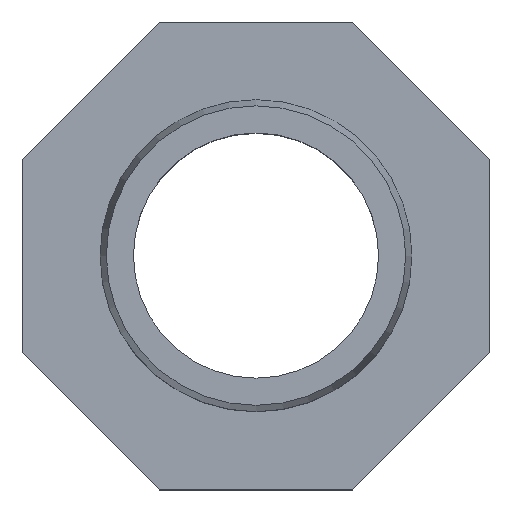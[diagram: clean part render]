
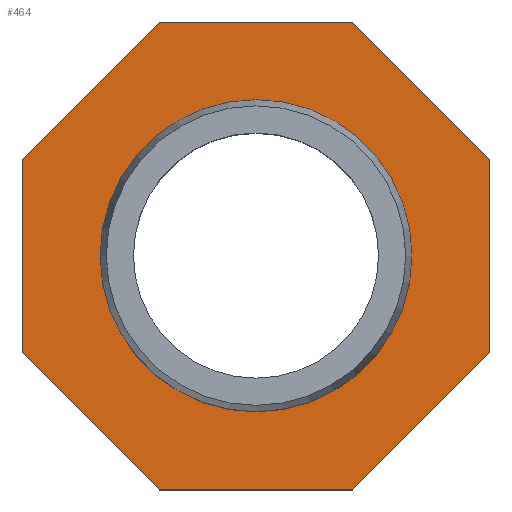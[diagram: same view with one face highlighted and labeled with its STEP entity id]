
A CAD part, top view. The second image highlights one B-rep face of the part: STEP entity #464.
In plain terms, the highlighted planar face has unit normal (0, 0, 1).
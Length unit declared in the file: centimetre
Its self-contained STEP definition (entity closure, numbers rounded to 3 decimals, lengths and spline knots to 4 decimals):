
#19=LINE('',#5173,#46);
#23=LINE('',#5181,#50);
#26=LINE('',#5187,#53);
#29=LINE('',#5193,#56);
#32=LINE('',#5199,#59);
#35=LINE('',#5205,#62);
#38=LINE('',#5211,#65);
#41=LINE('',#5216,#68);
#46=VECTOR('',#554,3.1066);
#50=VECTOR('',#560,3.1066);
#53=VECTOR('',#565,3.1066);
#56=VECTOR('',#570,3.1066);
#59=VECTOR('',#575,3.1066);
#62=VECTOR('',#580,3.1066);
#65=VECTOR('',#585,3.1066);
#68=VECTOR('',#590,3.1066);
#98=PLANE('',#500);
#108=FACE_BOUND('',#173,.T.);
#137=FACE_OUTER_BOUND('',#172,.T.);
#172=EDGE_LOOP('',(#382,#383,#384,#385,#386,#387,#388,#389));
#173=EDGE_LOOP('',(#390));
#198=CIRCLE('',#488,2.5);
#222=VERTEX_POINT('',#5165);
#224=VERTEX_POINT('',#5171);
#225=VERTEX_POINT('',#5172);
#228=VERTEX_POINT('',#5180);
#230=VERTEX_POINT('',#5186);
#232=VERTEX_POINT('',#5192);
#234=VERTEX_POINT('',#5198);
#236=VERTEX_POINT('',#5204);
#238=VERTEX_POINT('',#5210);
#268=EDGE_CURVE('',#222,#222,#198,.T.);
#270=EDGE_CURVE('',#224,#225,#19,.T.);
#274=EDGE_CURVE('',#228,#224,#23,.T.);
#277=EDGE_CURVE('',#230,#228,#26,.T.);
#280=EDGE_CURVE('',#232,#230,#29,.T.);
#283=EDGE_CURVE('',#234,#232,#32,.T.);
#286=EDGE_CURVE('',#236,#234,#35,.T.);
#289=EDGE_CURVE('',#238,#236,#38,.T.);
#292=EDGE_CURVE('',#225,#238,#41,.T.);
#382=ORIENTED_EDGE('',*,*,#292,.F.);
#383=ORIENTED_EDGE('',*,*,#270,.F.);
#384=ORIENTED_EDGE('',*,*,#274,.F.);
#385=ORIENTED_EDGE('',*,*,#277,.F.);
#386=ORIENTED_EDGE('',*,*,#280,.F.);
#387=ORIENTED_EDGE('',*,*,#283,.F.);
#388=ORIENTED_EDGE('',*,*,#286,.F.);
#389=ORIENTED_EDGE('',*,*,#289,.F.);
#390=ORIENTED_EDGE('',*,*,#268,.F.);
#464=ADVANCED_FACE('',(#137,#108),#98,.T.);
#488=AXIS2_PLACEMENT_3D('',#5166,#546,#547);
#500=AXIS2_PLACEMENT_3D('',#5219,#594,#595);
#546=DIRECTION('center_axis',(0.,0.,1.));
#547=DIRECTION('ref_axis',(1.,0.,0.));
#554=DIRECTION('',(1.,0.,0.));
#560=DIRECTION('',(0.707,0.707,0.));
#565=DIRECTION('',(0.,1.,0.));
#570=DIRECTION('',(-0.707,0.707,0.));
#575=DIRECTION('',(-1.,0.,0.));
#580=DIRECTION('',(-0.707,-0.707,0.));
#585=DIRECTION('',(0.,-1.,0.));
#590=DIRECTION('',(0.707,-0.707,0.));
#594=DIRECTION('center_axis',(0.,0.,1.));
#595=DIRECTION('ref_axis',(1.,0.,0.));
#5165=CARTESIAN_POINT('',(2.098,-0.003,1.7233));
#5166=CARTESIAN_POINT('Origin',(-0.402,-0.003,
1.7233));
#5171=CARTESIAN_POINT('',(-1.9553,3.747,1.7233));
#5172=CARTESIAN_POINT('',(1.1513,3.747,1.7233));
#5173=CARTESIAN_POINT('',(-1.9553,3.747,1.7233));
#5180=CARTESIAN_POINT('',(-4.152,1.5503,1.7233));
#5181=CARTESIAN_POINT('',(-4.152,1.5503,1.7233));
#5186=CARTESIAN_POINT('',(-4.152,-1.5563,1.7233));
#5187=CARTESIAN_POINT('',(-4.152,-1.5563,1.7233));
#5192=CARTESIAN_POINT('',(-1.9553,-3.753,1.7233));
#5193=CARTESIAN_POINT('',(-1.9553,-3.753,1.7233));
#5198=CARTESIAN_POINT('',(1.1513,-3.753,1.7233));
#5199=CARTESIAN_POINT('',(1.1513,-3.753,1.7233));
#5204=CARTESIAN_POINT('',(3.348,-1.5563,1.7233));
#5205=CARTESIAN_POINT('',(3.348,-1.5563,1.7233));
#5210=CARTESIAN_POINT('',(3.348,1.5503,1.7233));
#5211=CARTESIAN_POINT('',(3.348,1.5503,1.7233));
#5216=CARTESIAN_POINT('',(1.1513,3.747,1.7233));
#5219=CARTESIAN_POINT('Origin',(2.098,-0.003,1.7233));
